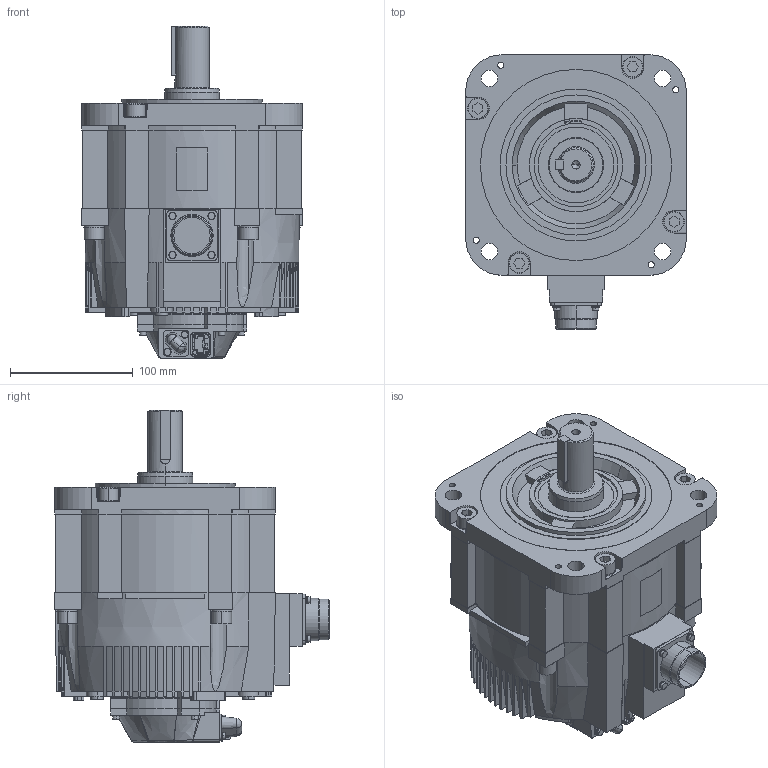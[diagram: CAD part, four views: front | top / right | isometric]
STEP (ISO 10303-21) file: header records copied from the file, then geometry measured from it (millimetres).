
FILE_DESCRIPTION (( 'STEP AP214' ), '1' );
FILE_NAME ('SGM7G-30APK-YR1.STEP', '2021-04-12T15:47:39', ( '' ), ( '' ), 'SwSTEP 2.0', 'SolidWorks 2019', '' );
FILE_SCHEMA (( 'AUTOMOTIVE_DESIGN' ));
Length unit declared in the file: millimetre
Products named in the file (1): SGM7G-30APK-YR1
Bounding box: 180 x 223.85 x 271 mm (x, y, z)
Volume: 4648065.5 mm3; surface area: 251743.6 mm2
Topology: 2 solids, 2 shells, 1122 faces, 2947 edges, 1918 vertices
Faces by surface type: plane 685, cylinder 292, cone 94, bspline 45, sphere 6
Entity records: 48129 total; most frequent: CARTESIAN_POINT 8702, ORIENTED_EDGE 5878, DIRECTION 5717, EDGE_CURVE 2939, AXIS2_PLACEMENT_3D 2002, VERTEX_POINT 1918, VECTOR 1713, LINE 1713
